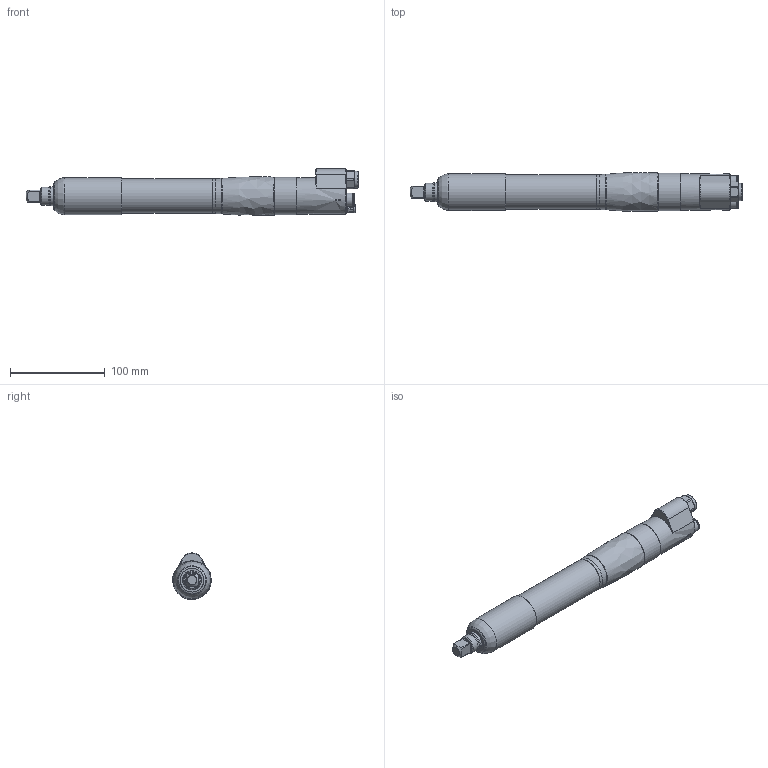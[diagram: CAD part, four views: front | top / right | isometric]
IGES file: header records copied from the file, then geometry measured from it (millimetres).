
Global section: file name: C:\Documents and Settings\tbok\Desktop\QA4ASRS046NF20S08.igs; native system: Unigraphics Version X V2.0; preprocessor: Unigraphics NX IGES V2.0; date: 20060510.093120; units: millimetre
Bounding box: 350.56 x 40.97 x 49.13 mm (x, y, z)
Surface area: 43637.9 mm2 (no closed solid volume)
Topology: 0 solids, 0 shells, 178 faces, 2108 edges, 2075 vertices
Faces by surface type: revolution 106, extrusion 72
